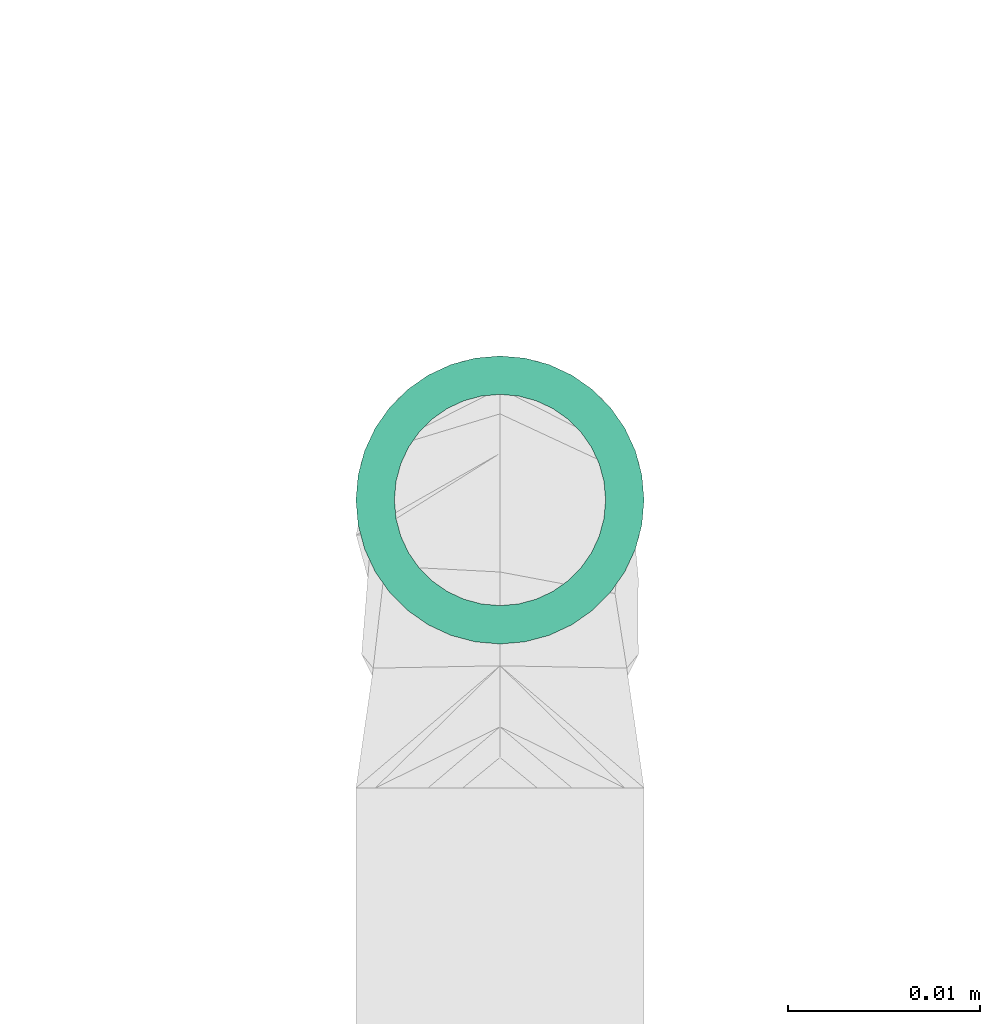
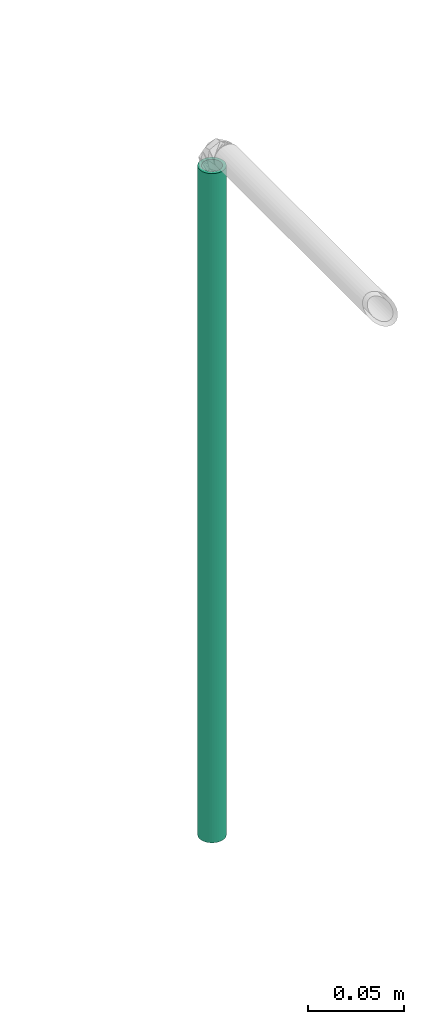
# One storey, part 16 of 18: 1 flow segment.
"""IFC2X3 building model written with IfcOpenShell, lengths in millimetres."""

from ifc_helpers import new_model, entity, si_unit, converted_unit, derived_unit, direction, frame, place, context, subcontext, project, spatial, faceted_brep, type_object, element, save


model = new_model("IFC2X3")

# Units and contexts
model_context = context("Model", 3, precision=0.01, world=frame((0.0, 4.29681676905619e-09, 0.0)), true_north=direction((4.01073788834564e-13, 1.0)))
plan_context = context("Plan", 3, precision=0.01, world=frame((0.0, 4.29681676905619e-09, 0.0)), true_north=direction((4.01073788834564e-13, 1.0)))
body_context = subcontext(model_context, "Body", "Model", "MODEL_VIEW")
ifc_project = project(units=[converted_unit("PLANEANGLEUNIT", "DEGREE", entity("IfcPositiveLengthMeasure", 0.0174532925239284), si_unit("PLANEANGLEUNIT", "RADIAN"), dimensions=[0, 0, 0, 0, 0, 0, 0]), si_unit("AREAUNIT", "SQUARE_METRE"), si_unit("LENGTHUNIT", "METRE", prefix="MILLI"), si_unit("MASSUNIT", "GRAM", prefix="KILO"), si_unit("POWERUNIT", "WATT"), si_unit("PRESSUREUNIT", "PASCAL", prefix="KILO"), si_unit("FORCEUNIT", "NEWTON", prefix="KILO"), si_unit("ELECTRICVOLTAGEUNIT", "VOLT"), si_unit("ELECTRICCURRENTUNIT", "AMPERE"), si_unit("THERMODYNAMICTEMPERATUREUNIT", "DEGREE_CELSIUS"), si_unit("TIMEUNIT", "SECOND"), si_unit("VOLUMEUNIT", "CUBIC_METRE"), derived_unit("LINEARVELOCITYUNIT", [(si_unit("LENGTHUNIT", "METRE"), 1), (si_unit("TIMEUNIT", "SECOND"), -1)]), derived_unit("VOLUMETRICFLOWRATEUNIT", [(si_unit("VOLUMEUNIT", "CUBIC_METRE"), 1), (si_unit("TIMEUNIT", "SECOND"), -1)]), derived_unit("THERMALTRANSMITTANCEUNIT", [(si_unit("POWERUNIT", "WATT"), 1), (si_unit("THERMODYNAMICTEMPERATUREUNIT", "KELVIN"), -1), (si_unit("AREAUNIT", "SQUARE_METRE"), -1)]), derived_unit("SOUNDPRESSUREUNIT", [(si_unit("PRESSUREUNIT", "PASCAL"), 1)])], contexts=[model_context, plan_context])

# Site, building, storey
site_placement = place(None, frame((0.0, -4.29681676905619e-09, 0.0), z_axis=(0.0, 0.0, 1.0), x_axis=(1.0, 0.0, 0.0)))
site = spatial("IfcSite", under=ifc_project, at=site_placement, Name="ENGM", CompositionType="ELEMENT")
building_placement = place(site_placement, frame((0.0, 4.29681676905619e-09, 0.0), z_axis=(0.0, 0.0, 1.0), x_axis=(1.0, 0.0, 0.0)))
building = spatial("IfcBuilding", under=site, at=building_placement, Name="TI", CompositionType="ELEMENT")
storey_placement = place(building_placement, frame((0.0, 0.0, 204000.0), z_axis=(0.0, 0.0, 1.0), x_axis=(1.0, 0.0, 0.0)))
storey = spatial("IfcBuildingStorey", under=building, at=storey_placement, Name="Nivå D", CompositionType="ELEMENT", Elevation=204000.0)

# Flow segment
pipe_segment_type = type_object("IfcPipeSegmentType", Name="Kobberrør", PredefinedType="RIGIDSEGMENT")
flow_segment_placement = place(storey_placement, frame((592944.82673, 574922.17632, 4015.0), z_axis=(0.0, 1.0, 0.0), x_axis=(0.0, 0.0, 1.0)))
element("IfcFlowSegment", 1, at=flow_segment_placement, inside=storey, type_object=pipe_segment_type, Name="Kobberrør", context=body_context, shape_type="Brep", body=[
    faceted_brep([(1885.0, 5.41644264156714, -0.955064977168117), (1885.0, 5.5, 0.0), (2310.0, 5.5, 0.0), (2310.0, 5.41644264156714, -0.955064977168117), (1885.0, 5.16830941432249, -1.88111078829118), (2310.0, 5.16830941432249, -1.88111078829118), (1885.0, 4.76313972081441, -2.75), (2310.0, 4.76313972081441, -2.75), (1885.0, 4.21324443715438, -3.53533185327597), (2310.0, 4.21324443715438, -3.53533185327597), (1885.0, 3.53533185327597, -4.21324443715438), (2310.0, 3.53533185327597, -4.21324443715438), (1885.0, 2.75, -4.76313972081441), (2310.0, 2.75, -4.76313972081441), (1885.0, 1.88111078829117, -5.1683094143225), (2310.0, 1.88111078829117, -5.1683094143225), (1885.0, 0.955064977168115, -5.41644264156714), (2310.0, 0.955064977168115, -5.41644264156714), (1885.0, -1.01033360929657e-15, -5.5), (2310.0, -1.01033360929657e-15, -5.5), (1885.0, -0.955064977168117, -5.41644264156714), (2310.0, -0.955064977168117, -5.41644264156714), (1885.0, -1.88111078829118, -5.1683094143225), (2310.0, -1.88111078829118, -5.1683094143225), (1885.0, -2.75, -4.76313972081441), (2310.0, -2.75, -4.76313972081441), (1885.0, -3.53533185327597, -4.21324443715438), (2310.0, -3.53533185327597, -4.21324443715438), (1885.0, -4.21324443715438, -3.53533185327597), (2310.0, -4.21324443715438, -3.53533185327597), (1885.0, -4.76313972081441, -2.75), (2310.0, -4.76313972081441, -2.75), (1885.0, -5.1683094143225, -1.88111078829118), (2310.0, -5.1683094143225, -1.88111078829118), (1885.0, -5.41644264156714, -0.955064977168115), (2310.0, -5.41644264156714, -0.955064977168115), (1885.0, -5.5, 6.73555739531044e-16), (2310.0, -5.5, 6.73555739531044e-16), (1885.0, -5.41644264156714, 0.955064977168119), (2310.0, -5.41644264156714, 0.955064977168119), (1885.0, -5.1683094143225, 1.88111078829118), (2310.0, -5.1683094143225, 1.88111078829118), (1885.0, -4.76313972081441, 2.75), (2310.0, -4.76313972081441, 2.75), (1885.0, -4.21324443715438, 3.53533185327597), (2310.0, -4.21324443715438, 3.53533185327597), (1885.0, -3.53533185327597, 4.21324443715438), (2310.0, -3.53533185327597, 4.21324443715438), (1885.0, -2.75, 4.76313972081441), (2310.0, -2.75, 4.76313972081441), (1885.0, -1.88111078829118, 5.1683094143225), (2310.0, -1.88111078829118, 5.1683094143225), (1885.0, -0.955064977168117, 5.41644264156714), (2310.0, -0.955064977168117, 5.41644264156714), (1885.0, 3.36777869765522e-16, 5.5), (2310.0, 3.36777869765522e-16, 5.5), (1885.0, 0.955064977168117, 5.41644264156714), (2310.0, 0.955064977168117, 5.41644264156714), (1885.0, 1.88111078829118, 5.1683094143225), (2310.0, 1.88111078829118, 5.1683094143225), (1885.0, 2.75, 4.76313972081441), (2310.0, 2.75, 4.76313972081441), (1885.0, 3.53533185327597, 4.21324443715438), (2310.0, 3.53533185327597, 4.21324443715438), (1885.0, 4.21324443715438, 3.53533185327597), (2310.0, 4.21324443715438, 3.53533185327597), (1885.0, 4.76313972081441, 2.75), (2310.0, 4.76313972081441, 2.75), (1885.0, 5.1683094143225, 1.88111078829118), (2310.0, 5.1683094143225, 1.88111078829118), (1885.0, 5.41644264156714, 0.955064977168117), (2310.0, 5.41644264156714, 0.955064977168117), (1885.0, 7.5, 0.0), (1885.0, 7.38605814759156, -1.30236133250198), (2310.0, 7.38605814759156, -1.30236133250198), (2310.0, 7.5, 0.0), (1885.0, 7.38605814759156, 1.30236133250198), (2310.0, 7.38605814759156, 1.30236133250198), (1885.0, 7.04769465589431, 2.56515107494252), (2310.0, 7.04769465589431, 2.56515107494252), (1885.0, 6.49519052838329, 3.75), (2310.0, 6.49519052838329, 3.75), (1885.0, 5.74533332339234, 4.82090707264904), (2310.0, 5.74533332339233, 4.82090707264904), (1885.0, 4.82090707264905, 5.74533332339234), (2310.0, 4.82090707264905, 5.74533332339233), (1885.0, 3.75, 6.49519052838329), (2310.0, 3.75, 6.49519052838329), (1885.0, 2.56515107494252, 7.04769465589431), (2310.0, 2.56515107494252, 7.04769465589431), (1885.0, 1.30236133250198, 7.38605814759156), (2310.0, 1.30236133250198, 7.38605814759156), (1885.0, 4.59242549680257e-16, 7.5), (2310.0, 4.59242549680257e-16, 7.5), (1885.0, -1.30236133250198, 7.38605814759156), (2310.0, -1.30236133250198, 7.38605814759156), (1885.0, -2.56515107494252, 7.04769465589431), (2310.0, -2.56515107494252, 7.04769465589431), (1885.0, -3.75, 6.49519052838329), (2310.0, -3.75, 6.49519052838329), (1885.0, -4.82090707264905, 5.74533332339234), (2310.0, -4.82090707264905, 5.74533332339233), (1885.0, -5.74533332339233, 4.82090707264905), (2310.0, -5.74533332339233, 4.82090707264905), (1885.0, -6.49519052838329, 3.75), (2310.0, -6.49519052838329, 3.75), (1885.0, -7.04769465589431, 2.56515107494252), (2310.0, -7.04769465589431, 2.56515107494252), (1885.0, -7.38605814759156, 1.30236133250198), (2310.0, -7.38605814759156, 1.30236133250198), (1885.0, -7.5, 9.18485099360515e-16), (2310.0, -7.5, 9.18485099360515e-16), (1885.0, -7.38605814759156, -1.30236133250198), (2310.0, -7.38605814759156, -1.30236133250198), (1885.0, -7.04769465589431, -2.56515107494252), (2310.0, -7.04769465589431, -2.56515107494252), (1885.0, -6.49519052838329, -3.75), (2310.0, -6.49519052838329, -3.75), (1885.0, -5.74533332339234, -4.82090707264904), (2310.0, -5.74533332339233, -4.82090707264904), (1885.0, -4.82090707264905, -5.74533332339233), (2310.0, -4.82090707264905, -5.74533332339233), (1885.0, -3.75, -6.49519052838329), (2310.0, -3.75, -6.49519052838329), (1885.0, -2.56515107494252, -7.04769465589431), (2310.0, -2.56515107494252, -7.04769465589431), (1885.0, -1.30236133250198, -7.38605814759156), (2310.0, -1.30236133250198, -7.38605814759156), (1885.0, -1.37772764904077e-15, -7.5), (2310.0, -1.37772764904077e-15, -7.5), (1885.0, 1.30236133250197, -7.38605814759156), (2310.0, 1.30236133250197, -7.38605814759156), (1885.0, 2.56515107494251, -7.04769465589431), (2310.0, 2.56515107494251, -7.04769465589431), (1885.0, 3.75, -6.49519052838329), (2310.0, 3.75, -6.49519052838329), (1885.0, 4.82090707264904, -5.74533332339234), (2310.0, 4.82090707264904, -5.74533332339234), (1885.0, 5.74533332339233, -4.82090707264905), (2310.0, 5.74533332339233, -4.82090707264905), (1885.0, 6.49519052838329, -3.75), (2310.0, 6.49519052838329, -3.75), (1885.0, 7.04769465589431, -2.56515107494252), (2310.0, 7.04769465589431, -2.56515107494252)], [[[0, 1, 2, 3]], [[4, 0, 3, 5]], [[6, 4, 5, 7]], [[8, 6, 7, 9]], [[10, 8, 9, 11]], [[12, 10, 11, 13]], [[14, 12, 13, 15]], [[16, 14, 15, 17]], [[18, 16, 17, 19]], [[20, 18, 19, 21]], [[22, 20, 21, 23]], [[24, 22, 23, 25]], [[26, 24, 25, 27]], [[28, 26, 27, 29]], [[30, 28, 29, 31]], [[32, 30, 31, 33]], [[34, 32, 33, 35]], [[36, 34, 35, 37]], [[38, 36, 37, 39]], [[40, 38, 39, 41]], [[42, 40, 41, 43]], [[44, 42, 43, 45]], [[46, 44, 45, 47]], [[48, 46, 47, 49]], [[50, 48, 49, 51]], [[52, 50, 51, 53]], [[54, 52, 53, 55]], [[56, 54, 55, 57]], [[58, 56, 57, 59]], [[60, 58, 59, 61]], [[62, 60, 61, 63]], [[64, 62, 63, 65]], [[66, 64, 65, 67]], [[68, 66, 67, 69]], [[70, 68, 69, 71]], [[1, 70, 71, 2]], [[72, 73, 74, 75]], [[76, 72, 75, 77]], [[78, 76, 77, 79]], [[80, 78, 79, 81]], [[82, 80, 81, 83]], [[84, 82, 83, 85]], [[86, 84, 85, 87]], [[88, 86, 87, 89]], [[90, 88, 89, 91]], [[92, 90, 91, 93]], [[94, 92, 93, 95]], [[96, 94, 95, 97]], [[98, 96, 97, 99]], [[100, 98, 99, 101]], [[102, 100, 101, 103]], [[104, 102, 103, 105]], [[106, 104, 105, 107]], [[108, 106, 107, 109]], [[110, 108, 109, 111]], [[112, 110, 111, 113]], [[114, 112, 113, 115]], [[116, 114, 115, 117]], [[118, 116, 117, 119]], [[120, 118, 119, 121]], [[122, 120, 121, 123]], [[124, 122, 123, 125]], [[126, 124, 125, 127]], [[128, 126, 127, 129]], [[130, 128, 129, 131]], [[132, 130, 131, 133]], [[134, 132, 133, 135]], [[136, 134, 135, 137]], [[138, 136, 137, 139]], [[140, 138, 139, 141]], [[142, 140, 141, 143]], [[73, 142, 143, 74]], [[75, 74, 143, 141, 139, 137, 135, 133, 131, 129, 127, 125, 123, 121, 119, 117, 115, 113, 111, 109, 107, 105, 103, 101, 99, 97, 95, 93, 91, 89, 87, 85, 83, 81, 79, 77], [2, 71, 69, 67, 65, 63, 61, 59, 57, 55, 53, 51, 49, 47, 45, 43, 41, 39, 37, 35, 33, 31, 29, 27, 25, 23, 21, 19, 17, 15, 13, 11, 9, 7, 5, 3]], [[76, 78, 80, 82, 84, 86, 88, 90, 92, 94, 96, 98, 100, 102, 104, 106, 108, 110, 112, 114, 116, 118, 120, 122, 124, 126, 128, 130, 132, 134, 136, 138, 140, 142, 73, 72], [4, 6, 8, 10, 12, 14, 16, 18, 20, 22, 24, 26, 28, 30, 32, 34, 36, 38, 40, 42, 44, 46, 48, 50, 52, 54, 56, 58, 60, 62, 64, 66, 68, 70, 1, 0]]], orient=[[False], [False], [False], [False], [False], [False], [False], [False], [False], [False], [False], [False], [False], [False], [False], [False], [False], [False], [False], [False], [False], [False], [False], [False], [False], [False], [False], [False], [False], [False], [False], [False], [False], [False], [False], [False], [False], [False], [False], [False], [False], [False], [False], [False], [False], [False], [False], [False], [False], [False], [False], [False], [False], [False], [False], [False], [False], [False], [False], [False], [False], [False], [False], [False], [False], [False], [False], [False], [False], [False], [False], [False], [False, False], [False, False]]),
])

save(model, "model.ifc")
